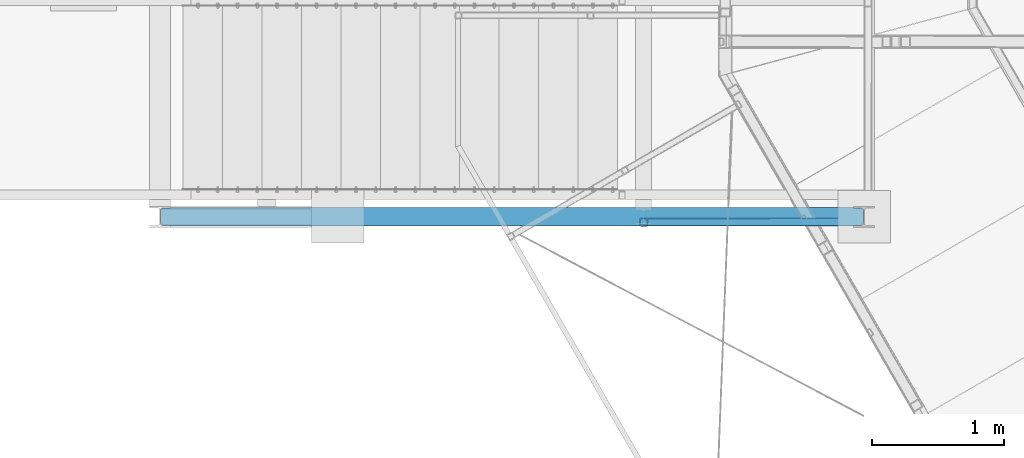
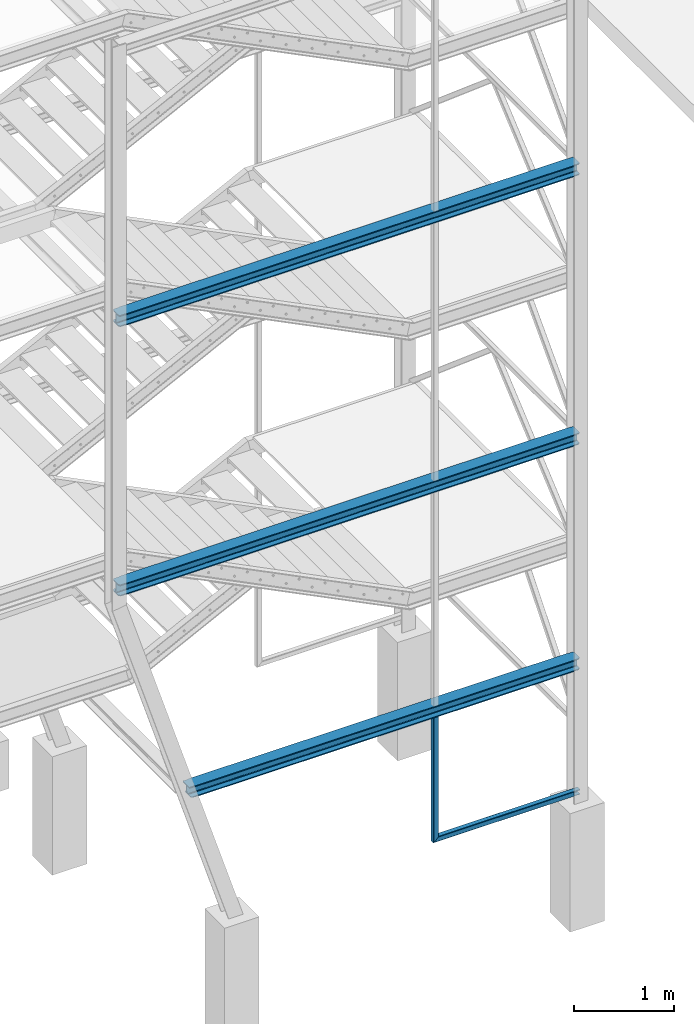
# One storey, part 37 of 132: 5 discrete accessories, 1 element without a shape of its own.
"""IFC2X3 building model written with IfcOpenShell, lengths in millimetres."""

from ifc_helpers import new_model, si_unit, frame, origin_with_axes, origin_2d_with_axis, place, context, subcontext, project, spatial, polyline, hollow_rectangle, i_section, outline, extrude, boolean, clip, halfspace, material, type_object, element, aggregate, save


model = new_model("IFC2X3")

# Units and contexts
model_context = context("Model", 3, precision=1e-05, world=origin_with_axes())
body_context = subcontext(model_context, "Body", "Model", "MODEL_VIEW")
ifc_project = project(units=[si_unit("LENGTHUNIT", "METRE", prefix="MILLI"), si_unit("AREAUNIT", "SQUARE_METRE"), si_unit("VOLUMEUNIT", "CUBIC_METRE"), si_unit("MASSUNIT", "GRAM", prefix="KILO"), si_unit("TIMEUNIT", "SECOND"), si_unit("PLANEANGLEUNIT", "RADIAN"), si_unit("SOLIDANGLEUNIT", "STERADIAN"), si_unit("THERMODYNAMICTEMPERATUREUNIT", "DEGREE_CELSIUS"), si_unit("LUMINOUSINTENSITYUNIT", "LUMEN")], contexts=[model_context])

# Site, building, storey
site_placement = place(None, origin_with_axes())
site = spatial("IfcSite", under=ifc_project, at=site_placement, Name="Budowa", CompositionType="ELEMENT")
building_placement = place(site_placement, origin_with_axes())
building = spatial("IfcBuilding", under=site, at=building_placement, Name="Undefined", CompositionType="ELEMENT")
storey_placement = place(building_placement, origin_with_axes())
storey = spatial("IfcBuildingStorey", under=building, at=storey_placement, Name="Undefined", CompositionType="ELEMENT", Elevation=0.0)

# Assembly, discrete accessories
assembly_placement = place(storey_placement, origin_with_axes())
assembly = element("IfcElementAssembly", 1, at=assembly_placement, inside=storey, Name="Steel Assembly", AssemblyPlace="NOTDEFINED", PredefinedType="RIGID_FRAME")
ifc_material = material(Name="STEEL/S235")
discrete_accessory_type_1 = type_object("IfcDiscreteAccessoryType", Name="BEAM")
discrete_accessory_1_placement = place(assembly_placement, frame((-620.00000008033, 7630.00000004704, 1140.0), z_axis=(0.0, 0.0, -1.0), x_axis=(1.0, 0.0, 0.0)))
discrete_accessory_1 = element("IfcDiscreteAccessory", 2, at=discrete_accessory_1_placement, type_object=discrete_accessory_type_1, material=ifc_material, Name="BEAM", ObjectType="SHS60*4", context=body_context, shape_type="CSG", body=[
    boolean("DIFFERENCE", boolean("DIFFERENCE", boolean("DIFFERENCE", extrude(hollow_rectangle(XDim=60.0, YDim=60.0, WallThickness=4.0, InnerFilletRadius=4.0, OuterFilletRadius=8.0, at=origin_2d_with_axis()), frame((1670.0, 0.0, 0.0), z_axis=(-1.0, 0.0, 0.0), x_axis=(0.0, -1.0, 0.0)), (0.0, 0.0, 1.0), 1700.3), extrude(outline(polyline([(0.0, 0.0), (85.0, 0.0), (85.0, 14.0), (0.0, 14.0), (0.0, 0.0)])), frame((1680.0, 25.9999999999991, 40.0), z_axis=(0.0, 0.0, -1.0), x_axis=(-1.0, 0.0, 0.0)), (0.0, 0.0, 1.0), 80.0)), halfspace(frame((1670.0, -30.0, -1030.0), z_axis=(1.0, 0.0, 0.0), x_axis=(0.0, -1.0, 0.0)), False)), halfspace(frame((30.0, 0.0, -30.0), z_axis=(0.707106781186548, 0.0, 0.707106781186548), x_axis=(0.0, -1.0, 0.0)), True)),
])
discrete_accessory_2_placement = place(assembly_placement, frame((-620.00000008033, 7630.00000004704, 2710.0), z_axis=(-1.0, 0.0, 0.0), x_axis=(0.0, 0.0, -1.0)))
discrete_accessory_2 = element("IfcDiscreteAccessory", 3, at=discrete_accessory_2_placement, type_object=discrete_accessory_type_1, material=ifc_material, Name="BEAM", ObjectType="SHS60*4", context=body_context, shape_type="Clipping", body=[
    clip(clip(extrude(hollow_rectangle(XDim=60.0, YDim=60.0, WallThickness=4.0, InnerFilletRadius=4.0, OuterFilletRadius=8.0, at=origin_2d_with_axis()), frame((1600.3, 0.0, 0.0), z_axis=(-1.0, 0.0, 0.0), x_axis=(0.0, -1.0, 0.0)), (0.0, 0.0, 1.0), 1530.3), halfspace(frame((1540.0, 0.0, -30.0), z_axis=(0.707106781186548, 0.0, -0.707106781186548), x_axis=(0.0, -1.0, 0.0)), False)), halfspace(frame((70.0, 0.0, 1000.0), z_axis=(1.0, 0.0, 0.0), x_axis=(0.0, 1.0, 0.0)), True)),
])
discrete_accessory_type_2 = type_object("IfcDiscreteAccessoryType", Name="COLUMN")
discrete_accessory_3_placement = place(assembly_placement, frame((-4215.00000008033, 7670.00000004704, 8770.0), z_axis=(0.0, 0.0, 1.0), x_axis=(1.0, 0.0, 0.0)))
solid_1 = boolean("DIFFERENCE", boolean("DIFFERENCE", boolean("DIFFERENCE", boolean("DIFFERENCE", boolean("DIFFERENCE", boolean("DIFFERENCE", boolean("DIFFERENCE", boolean("DIFFERENCE", extrude(i_section(OverallWidth=140.0, OverallDepth=140.0, WebThickness=7.0, FlangeThickness=12.0, FilletRadius=12.0, at=origin_2d_with_axis()), frame((5265.0, 0.0, 0.0), z_axis=(-1.0, 0.0, 0.0), x_axis=(0.0, -1.0, 0.0)), (0.0, 0.0, 1.0), 5340.0), extrude(outline(polyline([(0.0, 0.0), (16.0, 0.0), (16.0, 10.8000001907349), (0.699999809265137, 26.1000003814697), (0.0, 26.1000003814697), (0.0, 0.0)])), frame((-86.0999999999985, -67.0, 75.0), z_axis=(0.0, 0.0, -1.0), x_axis=(0.0, 1.0, 0.0)), (0.0, 0.0, 1.0), 150.0)), extrude(outline(polyline([(0.0, 0.0), (16.0, 0.0), (16.0, 26.1000003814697), (15.3000001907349, 26.1000003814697), (0.0, 10.8000001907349), (0.0, 0.0)])), frame((-86.0999999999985, 51.0, 75.0), z_axis=(0.0, 0.0, -1.0), x_axis=(0.0, 1.0, 0.0)), (0.0, 0.0, 1.0), 150.0)), extrude(outline(polyline([(0.0, 0.0), (85.0, 0.0), (85.0, 14.0), (0.0, 14.0), (0.0, 0.0)])), frame((-84.9999999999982, 66.0, -80.0), z_axis=(0.0, 0.0, 1.0), x_axis=(1.0, 0.0, 0.0)), (0.0, 0.0, 1.0), 160.0)), extrude(outline(polyline([(0.0, 0.0), (85.0, 0.0), (85.0, 14.0), (0.0, 14.0), (0.0, 0.0)])), frame((-84.9999999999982, -66.0, 80.0), z_axis=(0.0, 0.0, -1.0), x_axis=(1.0, 0.0, 0.0)), (0.0, 0.0, 1.0), 160.0)), extrude(outline(polyline([(0.0, 0.0), (16.0, 0.0), (16.0, 10.8000001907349), (0.699999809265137, 26.1000003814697), (0.0, 26.1000003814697), (0.0, 0.0)])), frame((5276.1, 67.0, 75.0), z_axis=(0.0, 0.0, -1.0), x_axis=(0.0, -1.0, 0.0)), (0.0, 0.0, 1.0), 150.0)), extrude(outline(polyline([(0.0, 0.0), (16.0, 0.0), (16.0, 26.1000003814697), (15.3000001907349, 26.1000003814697), (0.0, 10.8000001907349), (0.0, 0.0)])), frame((5276.1, -51.0, 75.0), z_axis=(0.0, 0.0, -1.0), x_axis=(0.0, -1.0, 0.0)), (0.0, 0.0, 1.0), 150.0)), extrude(outline(polyline([(0.0, 0.0), (85.0, 0.0), (85.0, 14.0), (0.0, 14.0), (0.0, 0.0)])), frame((5275.0, -66.0, -80.0), z_axis=(0.0, 0.0, 1.0), x_axis=(-1.0, 0.0, 0.0)), (0.0, 0.0, 1.0), 160.0)), extrude(outline(polyline([(0.0, 0.0), (85.0, 0.0), (85.0, 14.0), (0.0, 14.0), (0.0, 0.0)])), frame((5275.0, 66.0, 80.0), z_axis=(0.0, 0.0, -1.0), x_axis=(-1.0, 0.0, 0.0)), (0.0, 0.0, 1.0), 160.0))
discrete_accessory_3 = element("IfcDiscreteAccessory", 4, at=discrete_accessory_3_placement, type_object=discrete_accessory_type_2, material=ifc_material, Name="COLUMN", ObjectType="HEB140", context=body_context, shape_type="CSG", body=[
    boolean("DIFFERENCE", boolean("DIFFERENCE", solid_1, halfspace(frame((5265.0, 70.0, 1070.0), z_axis=(1.0, 0.0, 0.0), x_axis=(0.0, 1.0, 0.0)), False)), halfspace(frame((-74.9999999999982, -70.0, 1070.0), z_axis=(-1.0, 0.0, 0.0), x_axis=(0.0, -1.0, 0.0)), False)),
])
discrete_accessory_4_placement = place(assembly_placement, frame((-4215.00000008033, 7670.00000004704, 5470.0), z_axis=(0.0, 0.0, 1.0), x_axis=(1.0, 0.0, 0.0)))
solid_2 = boolean("DIFFERENCE", boolean("DIFFERENCE", boolean("DIFFERENCE", boolean("DIFFERENCE", boolean("DIFFERENCE", boolean("DIFFERENCE", boolean("DIFFERENCE", boolean("DIFFERENCE", extrude(i_section(OverallWidth=140.0, OverallDepth=140.0, WebThickness=7.0, FlangeThickness=12.0, FilletRadius=12.0, at=origin_2d_with_axis()), frame((5265.0, 0.0, 0.0), z_axis=(-1.0, 0.0, 0.0), x_axis=(0.0, -1.0, 0.0)), (0.0, 0.0, 1.0), 5340.0), extrude(outline(polyline([(0.0, 0.0), (16.0, 0.0), (16.0, 10.8000001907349), (0.699999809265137, 26.1000003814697), (0.0, 26.1000003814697), (0.0, 0.0)])), frame((-86.0999999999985, -67.0, 75.0), z_axis=(0.0, 0.0, -1.0), x_axis=(0.0, 1.0, 0.0)), (0.0, 0.0, 1.0), 150.0)), extrude(outline(polyline([(0.0, 0.0), (16.0, 0.0), (16.0, 26.1000003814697), (15.3000001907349, 26.1000003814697), (0.0, 10.8000001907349), (0.0, 0.0)])), frame((-86.0999999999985, 51.0, 75.0), z_axis=(0.0, 0.0, -1.0), x_axis=(0.0, 1.0, 0.0)), (0.0, 0.0, 1.0), 150.0)), extrude(outline(polyline([(0.0, 0.0), (85.0, 0.0), (85.0, 14.0), (0.0, 14.0), (0.0, 0.0)])), frame((-84.9999999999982, 66.0, -80.0), z_axis=(0.0, 0.0, 1.0), x_axis=(1.0, 0.0, 0.0)), (0.0, 0.0, 1.0), 160.0)), extrude(outline(polyline([(0.0, 0.0), (85.0, 0.0), (85.0, 14.0), (0.0, 14.0), (0.0, 0.0)])), frame((-84.9999999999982, -66.0, 80.0), z_axis=(0.0, 0.0, -1.0), x_axis=(1.0, 0.0, 0.0)), (0.0, 0.0, 1.0), 160.0)), extrude(outline(polyline([(0.0, 0.0), (16.0, 0.0), (16.0, 10.8000001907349), (0.699999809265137, 26.1000003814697), (0.0, 26.1000003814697), (0.0, 0.0)])), frame((5276.1, 67.0, 75.0), z_axis=(0.0, 0.0, -1.0), x_axis=(0.0, -1.0, 0.0)), (0.0, 0.0, 1.0), 150.0)), extrude(outline(polyline([(0.0, 0.0), (16.0, 0.0), (16.0, 26.1000003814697), (15.3000001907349, 26.1000003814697), (0.0, 10.8000001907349), (0.0, 0.0)])), frame((5276.1, -51.0, 75.0), z_axis=(0.0, 0.0, -1.0), x_axis=(0.0, -1.0, 0.0)), (0.0, 0.0, 1.0), 150.0)), extrude(outline(polyline([(0.0, 0.0), (85.0, 0.0), (85.0, 14.0), (0.0, 14.0), (0.0, 0.0)])), frame((5275.0, -66.0, -80.0), z_axis=(0.0, 0.0, 1.0), x_axis=(-1.0, 0.0, 0.0)), (0.0, 0.0, 1.0), 160.0)), extrude(outline(polyline([(0.0, 0.0), (85.0, 0.0), (85.0, 14.0), (0.0, 14.0), (0.0, 0.0)])), frame((5275.0, 66.0, 80.0), z_axis=(0.0, 0.0, -1.0), x_axis=(-1.0, 0.0, 0.0)), (0.0, 0.0, 1.0), 160.0))
discrete_accessory_4 = element("IfcDiscreteAccessory", 5, at=discrete_accessory_4_placement, type_object=discrete_accessory_type_2, material=ifc_material, Name="COLUMN", ObjectType="HEB140", context=body_context, shape_type="CSG", body=[
    boolean("DIFFERENCE", boolean("DIFFERENCE", solid_2, halfspace(frame((5265.0, 70.0, 1070.0), z_axis=(1.0, 0.0, 0.0), x_axis=(0.0, 1.0, 0.0)), False)), halfspace(frame((-74.9999999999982, -70.0, 1070.0), z_axis=(-1.0, 0.0, 0.0), x_axis=(0.0, -1.0, 0.0)), False)),
])
discrete_accessory_5_placement = place(assembly_placement, frame((-3481.82352807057, 7670.00000004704, 2710.0), z_axis=(0.0, 0.0, 1.0), x_axis=(1.0, 0.0, 0.0)))
solid_3 = boolean("DIFFERENCE", boolean("DIFFERENCE", boolean("DIFFERENCE", boolean("DIFFERENCE", boolean("DIFFERENCE", boolean("DIFFERENCE", boolean("DIFFERENCE", boolean("DIFFERENCE", extrude(i_section(OverallWidth=140.0, OverallDepth=140.0, WebThickness=7.0, FlangeThickness=12.0, FilletRadius=12.0, at=origin_2d_with_axis()), frame((4531.82352799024, 0.0, 0.0), z_axis=(-1.0, 0.0, 0.0), x_axis=(0.0, -1.0, 0.0)), (0.0, 0.0, 1.0), 4526.58), extrude(outline(polyline([(0.0, 0.0), (16.0, 0.0), (16.0, 10.8000001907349), (0.699999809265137, 26.1000003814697), (0.0, 26.1000003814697), (0.0, 0.0)])), frame((-30.6171214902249, -67.0, 76.2379851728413), z_axis=(0.302740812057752, 0.0, -0.953072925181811), x_axis=(0.0, 1.0, 0.0)), (0.0, 0.0, 1.0), 166.4)), extrude(outline(polyline([(0.0, 0.0), (16.0, 0.0), (16.0, 26.1000003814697), (15.3000001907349, 26.1000003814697), (0.0, 10.8000001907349), (0.0, 0.0)])), frame((-30.6171214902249, 51.0, 76.2379851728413), z_axis=(0.302740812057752, 0.0, -0.953072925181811), x_axis=(0.0, 1.0, 0.0)), (0.0, 0.0, 1.0), 166.4)), extrude(outline(polyline([(0.0, 0.0), (85.0, 0.0), (85.0, 14.0), (0.0, 14.0), (0.0, 0.0)])), frame((-36.9556170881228, -66.0, 99.8259794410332), z_axis=(0.302740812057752, 0.0, -0.953072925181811), x_axis=(0.953072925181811, 0.0, 0.302740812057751)), (0.0, 0.0, 1.0), 215.2)), extrude(outline(polyline([(0.0, 0.0), (85.0, 0.0), (85.0, 14.0), (0.0, 14.0), (0.0, 0.0)])), frame((28.1942056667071, 66.0, -105.27531405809), z_axis=(-0.302740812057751, 0.0, 0.953072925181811), x_axis=(0.953072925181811, 0.0, 0.302740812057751)), (0.0, 0.0, 1.0), 215.2)), extrude(outline(polyline([(0.0, 0.0), (16.0, 0.0), (16.0, 26.1000003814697), (15.3000001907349, 26.1000003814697), (0.0, 10.8000001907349), (0.0, 0.0)])), frame((4542.92352799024, -51.0, 75.0), z_axis=(0.0, 0.0, -1.0), x_axis=(0.0, -1.0, 0.0)), (0.0, 0.0, 1.0), 150.0)), extrude(outline(polyline([(0.0, 0.0), (16.0, 0.0), (16.0, 10.8000001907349), (0.699999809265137, 26.1000003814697), (0.0, 26.1000003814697), (0.0, 0.0)])), frame((4542.92352799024, 67.0, 75.0), z_axis=(0.0, 0.0, -1.0), x_axis=(0.0, -1.0, 0.0)), (0.0, 0.0, 1.0), 150.0)), extrude(outline(polyline([(0.0, 0.0), (85.0, 0.0), (85.0, 14.0), (0.0, 14.0), (0.0, 0.0)])), frame((4541.82352799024, -66.0, -80.0), z_axis=(0.0, 0.0, 1.0), x_axis=(-1.0, 0.0, 0.0)), (0.0, 0.0, 1.0), 160.0)), extrude(outline(polyline([(0.0, 0.0), (85.0, 0.0), (85.0, 14.0), (0.0, 14.0), (0.0, 0.0)])), frame((4541.82352799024, 66.0, 80.0), z_axis=(0.0, 0.0, -1.0), x_axis=(-1.0, 0.0, 0.0)), (0.0, 0.0, 1.0), 160.0))
discrete_accessory_5 = element("IfcDiscreteAccessory", 6, at=discrete_accessory_5_placement, type_object=discrete_accessory_type_2, material=ifc_material, Name="COLUMN", ObjectType="HEB140", context=body_context, shape_type="CSG", body=[
    boolean("DIFFERENCE", boolean("DIFFERENCE", solid_3, halfspace(frame((4531.82352799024, 70.0, 1070.0), z_axis=(1.0, 0.0, 0.0), x_axis=(0.0, 1.0, 0.0)), False)), halfspace(frame((-318.172832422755, -70.0, 1018.17098929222), z_axis=(-0.953072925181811, 0.0, -0.302740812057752), x_axis=(0.0, -1.0, 0.0)), False)),
])
aggregate(assembly, [discrete_accessory_1, discrete_accessory_2, discrete_accessory_3, discrete_accessory_4, discrete_accessory_5])

save(model, "model.ifc")
